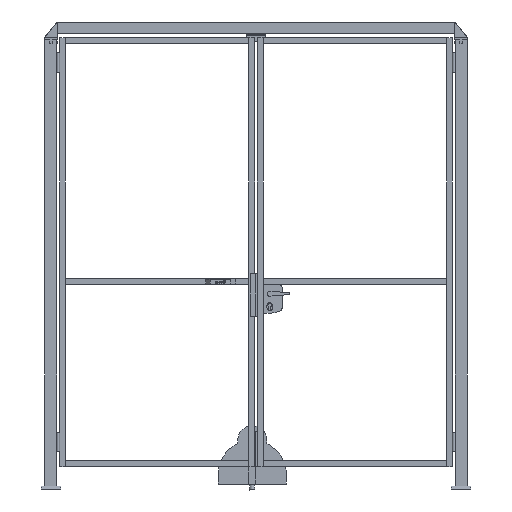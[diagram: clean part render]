
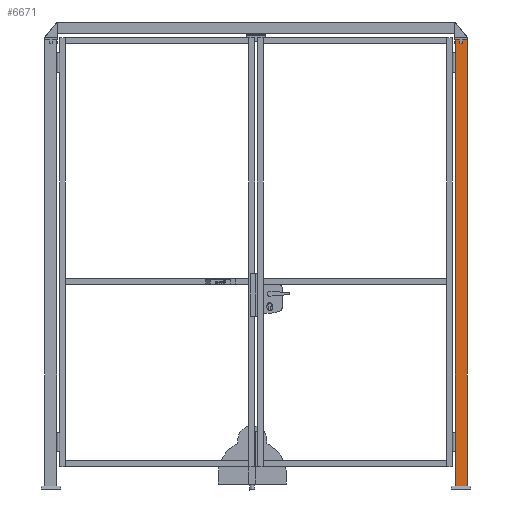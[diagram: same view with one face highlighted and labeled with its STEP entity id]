
A CAD part, front view. The second image highlights one B-rep face of the part: STEP entity #6671.
In plain terms, the highlighted planar face has unit normal (0, -1, 0).
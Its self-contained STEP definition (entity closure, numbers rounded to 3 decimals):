
#924=FACE_OUTER_BOUND('',#1277,.T.);
#1277=EDGE_LOOP('',(#5060,#5061,#5062,#5063));
#1792=LINE('',#9919,#2554);
#1794=LINE('',#9925,#2556);
#1797=LINE('',#9930,#2559);
#1798=LINE('',#9931,#2560);
#2554=VECTOR('',#7950,1.);
#2556=VECTOR('',#7954,1.);
#2559=VECTOR('',#7959,1.);
#2560=VECTOR('',#7960,1.);
#3247=VERTEX_POINT('',#9912);
#3250=VERTEX_POINT('',#9917);
#3252=VERTEX_POINT('',#9922);
#3253=VERTEX_POINT('',#9924);
#3952=EDGE_CURVE('',#3250,#3247,#1792,.T.);
#3954=EDGE_CURVE('',#3252,#3253,#1794,.T.);
#3957=EDGE_CURVE('',#3250,#3253,#1797,.T.);
#3958=EDGE_CURVE('',#3247,#3252,#1798,.T.);
#5060=ORIENTED_EDGE('',*,*,#3957,.T.);
#5061=ORIENTED_EDGE('',*,*,#3954,.F.);
#5062=ORIENTED_EDGE('',*,*,#3958,.F.);
#5063=ORIENTED_EDGE('',*,*,#3952,.F.);
#6397=PLANE('',#7079);
#6671=ADVANCED_FACE('',(#924),#6397,.F.);
#7079=AXIS2_PLACEMENT_3D('',#9929,#7957,#7958);
#7950=DIRECTION('',(1.,0.,0.));
#7954=DIRECTION('',(-1.,0.,0.));
#7957=DIRECTION('center_axis',(0.,1.,0.));
#7958=DIRECTION('ref_axis',(0.,0.,1.));
#7959=DIRECTION('',(0.,0.,-1.));
#7960=DIRECTION('',(0.,0.,-1.));
#9912=CARTESIAN_POINT('',(30.,-30.,2320.));
#9917=CARTESIAN_POINT('',(-30.,-30.,2320.));
#9919=CARTESIAN_POINT('',(0.,-30.,2320.));
#9922=CARTESIAN_POINT('',(30.,-30.,20.));
#9924=CARTESIAN_POINT('',(-30.,-30.,20.));
#9925=CARTESIAN_POINT('',(0.,-30.,20.));
#9929=CARTESIAN_POINT('Origin',(0.,-30.,
1170.));
#9930=CARTESIAN_POINT('',(-30.,-30.,1170.));
#9931=CARTESIAN_POINT('',(30.,-30.,1170.));
